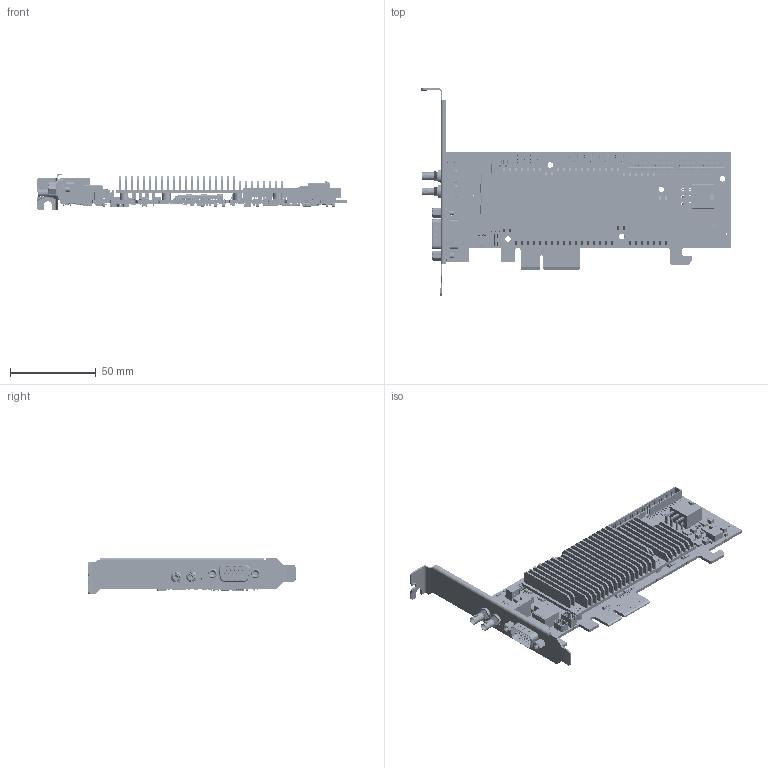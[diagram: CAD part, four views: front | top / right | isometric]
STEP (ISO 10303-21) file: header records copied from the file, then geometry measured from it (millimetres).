
FILE_DESCRIPTION( ( 'Unknown' ), '1' );
FILE_NAME( 'Q:/2003/Product3DCADModels/mm-ap20c16-0159-0101.stp', 'Unknown', ( 'Unknown' ), ( 'Unknown' ), 'PSStep 17.0.49', 'Unknown', ' ' );
FILE_SCHEMA( ( 'AUTOMOTIVE_DESIGN { 1 0 10303 214 1 1 1 1 }' ) );
Length unit declared in the file: millimetre
Products named in the file (951): BGA_ASSY_ASM; BGA; Pin_Shape; Open CASCADE STEP translator 6.8 16.4.1; Body-1; Open CASCADE STEP translator 6.8 17.2.1; Pin_Shape-1; Open CASCADE STEP translator 6.8 17.4.1; Body; Open CASCADE STEP translator 6.8 16.2.1; M16A_ASM_24_ASM; BODY_M16A_17; LEAD_M16A_42; L3-1077; SUBSTRATE_; ADHESIVE_; LID; L3-1080; Open CASCADE STEP translator 7.5 1.186.1.1; Open CASCADE STEP translator 7.5 1.186.1.2; Open CASCADE STEP translator 7.5 1.186.1.3; Open CASCADE STEP translator 7.5 1.186.1.4; Open CASCADE STEP translator 7.5 1.186.1.5; Open CASCADE STEP translator 7.5 1.186.1.6; Open CASCADE STEP translator 7.5 1.186.1.7; Open CASCADE STEP translator 7.5 1.186.1.8; Open CASCADE STEP translator 7.5 1.186.1.9; Open CASCADE STEP translator 7.5 1.186.1.10; Open CASCADE STEP translator 7.5 1.186.1.11; Open CASCADE STEP translator 7.5 1.186.1.12; Open CASCADE STEP translator 7.5 1.186.1.13; Open CASCADE STEP translator 7.5 1.186.1.14; Open CASCADE STEP translator 7.5 1.186.1.15; Open CASCADE STEP translator 7.5 1.186.1.16; Open CASCADE STEP translator 7.5 1.186.1.17; Open CASCADE STEP translator 7.5 1.186.1.18; Open CASCADE STEP translator 7.5 1.186.1.19; Open CASCADE STEP translator 7.5 1.186.1.20; Open CASCADE STEP translator 7.5 1.186.1.21; Open CASCADE STEP translator 7.5 1.186.1.22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
Assembly tree (3457 placements, depth 5):
  Assem1
    pcbracket-0390-01
    bnc-nut  x2
    G-085-530T  x2
    L3-595
    L3-595
    L3-595
    L3-595
    L3-595
    L3-595
    L3-595
    L3-595
    L3-595
    L3-595
    L3-595
    L3-595
    L3-595
    L3-595
    L3-595
    L3-595
    L3-595
    L3-595
    L3-595
    L3-595
    L3-595
    L3-595
    L3-595
    L3-595
    L3-595
    L3-595
    L3-595
    L3-595
    L3-595
    L3-595
    L3-595
    L3-595
    L3-595
    L3-595
    L3-595
    L3-595
    L3-595
    L3-595
    L3-595
    L3-595
    L3-595
    L3-595
    L3-595
    L3-595
    L3-595
    L3-595
    L3-595
    L3-595
    L3-595
    L3-595
    L3-595
    L3-595
    L3-595
    L3-595
    L3-595
    L3-595
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Bounding box: 180.88 x 121.02 x 21.59 mm (x, y, z)
Volume: 50307.2 mm3; surface area: 86256.6 mm2
Topology: 2880 solids, 2885 shells, 37454 faces, 95603 edges, 62369 vertices
Faces by surface type: plane 32078, cylinder 4014, sphere 1005, extrusion 140, torus 102, cone 87, bspline 28
Full cylindrical faces by diameter (mm): 0.159 x4, 0.164 x6, 0.206 x4, 0.3 x2, 0.36 x15, 0.4 x4, 0.432 x4, 0.5 x8, 0.519 x1, 0.6 x4, 0.7 x2, 0.76 x17, 0.78 x15, 0.8 x19, 1 x17, 1.1 x1, 1.194 x2, 1.25 x8, 1.4 x4, 1.45 x9, 1.5 x5, 1.7 x2, 1.8 x14, 2 x2, 2.156 x2, 2.5 x2, 2.84 x2, 3 x4, 3.2 x11, 3.7 x2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
Entity records: 440855 total; most frequent: CARTESIAN_POINT 61771, DIRECTION 59301, ORIENTED_EDGE 53224, EDGE_CURVE 26613, VECTOR 21965, LINE 21929, AXIS2_PLACEMENT_3D 18668, VERTEX_POINT 17377
